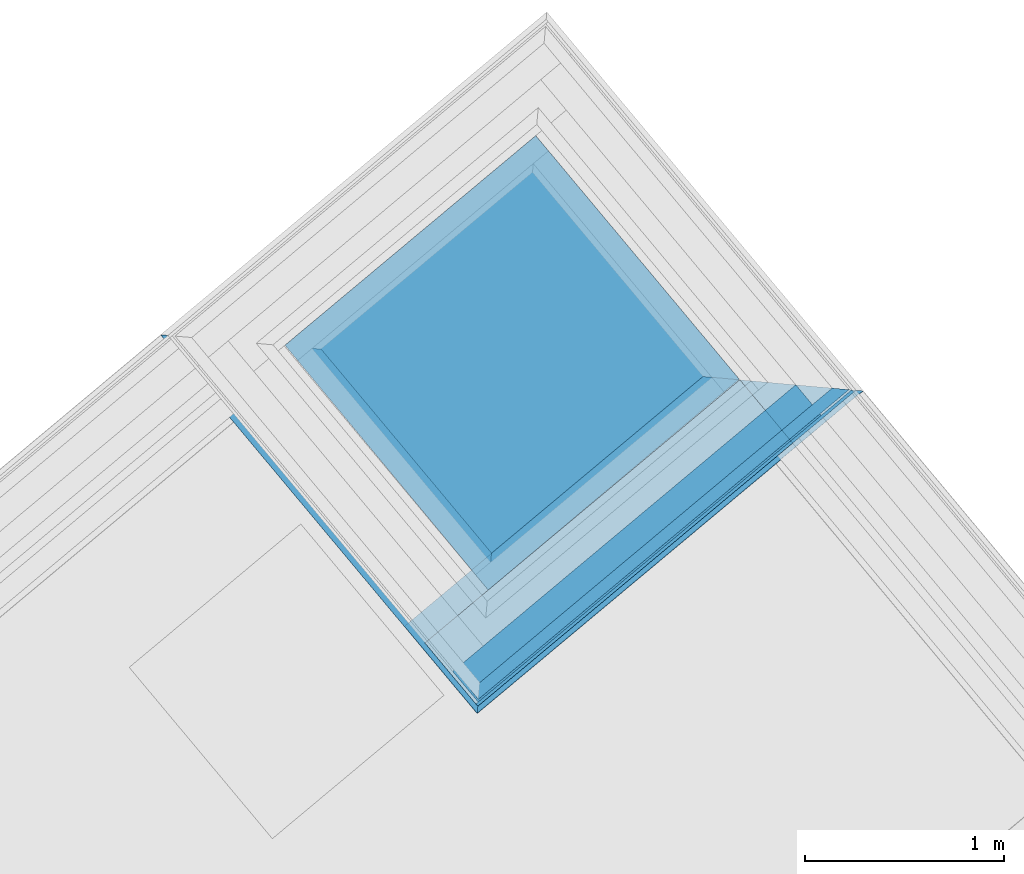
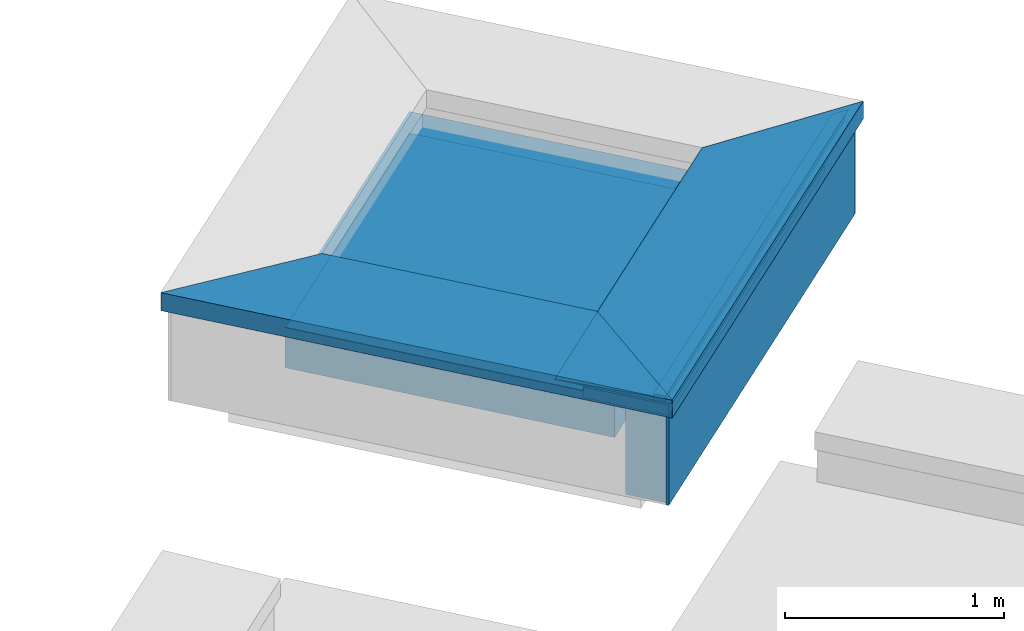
# One storey, part 10 of 15: 10 building element parts, 3 elements without a shape of their own.
"""IFC4 building model written with IfcOpenShell, lengths in metres."""

from ifc_helpers import new_model, entity, si_unit, converted_unit, derived_unit, direction, frame, origin_with_axes, place, context, subcontext, project, spatial, polygons, material, type_object, element, aggregate, save


model = new_model("IFC4")

# Units and contexts
model_context = context("Model", 3, precision=1e-05, world=origin_with_axes(), true_north=direction((0.0, 1.0)))
body_context = subcontext(model_context, "Body", "Model", "MODEL_VIEW")
ifc_project = project(units=[si_unit("LENGTHUNIT", "METRE"), si_unit("AREAUNIT", "SQUARE_METRE"), si_unit("VOLUMEUNIT", "CUBIC_METRE"), converted_unit("PLANEANGLEUNIT", "DEGREE", entity("IfcPlaneAngleMeasure", 0.0174532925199), si_unit("PLANEANGLEUNIT", "RADIAN"), dimensions=[0, 0, 0, 0, 0, 0, 0]), converted_unit("TIMEUNIT", "Year", entity("IfcTimeMeasure", 31556926.0), si_unit("TIMEUNIT", "SECOND"), dimensions=[0, 0, 1, 0, 0, 0, 0]), si_unit("MASSUNIT", "GRAM", prefix="KILO"), si_unit("THERMODYNAMICTEMPERATUREUNIT", "DEGREE_CELSIUS"), si_unit("LUMINOUSINTENSITYUNIT", "LUMEN"), si_unit("ENERGYUNIT", "JOULE", prefix="MEGA"), derived_unit("THERMALCONDUCTANCEUNIT", [(si_unit("POWERUNIT", "WATT"), 1), (si_unit("LENGTHUNIT", "METRE"), -1), (si_unit("THERMODYNAMICTEMPERATUREUNIT", "KELVIN"), -1)]), derived_unit("SPECIFICHEATCAPACITYUNIT", [(si_unit("ENERGYUNIT", "JOULE"), 1), (si_unit("MASSUNIT", "GRAM", prefix="KILO"), -1), (si_unit("THERMODYNAMICTEMPERATUREUNIT", "KELVIN"), -1)]), derived_unit("MASSDENSITYUNIT", [(si_unit("MASSUNIT", "GRAM", prefix="KILO"), 1), (si_unit("VOLUMEUNIT", "CUBIC_METRE"), -1)])], contexts=[model_context])

# Site, building, storey
site_placement = place(None, frame((-0.00153261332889, -0.00661245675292, 0.0), z_axis=(0.0, 0.0, 1.0), x_axis=(1.0, 0.0, 0.0)))
site = spatial("IfcSite", under=ifc_project, at=site_placement, Name="Site", CompositionType="ELEMENT")
building_placement = place(site_placement, origin_with_axes())
building = spatial("IfcBuilding", under=site, at=building_placement, Name="Building", CompositionType="ELEMENT")
storey_placement = place(building_placement, frame((0.0, 0.0, 11.84), z_axis=(0.0, 0.0, 1.0), x_axis=(1.0, 0.0, 0.0)))
storey = spatial("IfcBuildingStorey", under=building, at=storey_placement, Name="DA", CompositionType="ELEMENT", Elevation=11.84)

# Wall, building element parts
wall_type = type_object("IfcWallType", Name="Bauteil - Attika 574 x 610", PredefinedType="NOTDEFINED")
wall_1_placement = place(storey_placement, frame((1.33818690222, 24.5040825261, 0.96), z_axis=(0.0, 0.0, 1.0), x_axis=(0.767364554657, 0.641211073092, 0.0)))
wall_1 = element("IfcWall", 1, at=wall_1_placement, inside=storey, type_object=wall_type, Name="Wand-002", PredefinedType="NOTDEFINED")
ifc_material_1 = material(Name="Stahl")
building_element_part_1_placement = place(wall_1_placement, origin_with_axes())
building_element_part_1 = element("IfcBuildingElementPart", 2, at=building_element_part_1_placement, material=ifc_material_1, Name="Stahl", PredefinedType="NOTDEFINED", context=body_context, shape_type="Tessellation", body=[
    polygons([(-0.241515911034, -0.241500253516, 0.510007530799), (-0.241515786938, -0.239585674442, 0.510007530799), (-0.240558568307, -0.240542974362, 0.509050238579), (-0.241515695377, -0.238231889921, 0.51136132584), (-0.241515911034, -0.241500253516, 0.610006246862), (-0.241513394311, -0.202730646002, 0.608602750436), (-0.241515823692, -0.240152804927, 0.608602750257), (-0.24151582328, -0.240146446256, 0.51136132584), (-0.240161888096, -0.238231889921, 0.51136132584), (-0.233302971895, -0.23137340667, 0.518219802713), (2.28105556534, -0.23137340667, 0.518219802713), (2.2879140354, -0.238231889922, 0.511361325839), (2.29022512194, -0.240542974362, 0.509050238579), (2.28926782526, -0.241500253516, 0.510007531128), (2.28791402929, -0.241500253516, 0.511361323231), (2.28982858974, -0.241500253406, 0.51136132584), (2.28982910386, -0.241500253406, 0.519224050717), (2.28983177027, -0.241500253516, 0.559999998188), (2.28983228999, -0.241500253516, 0.567947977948), (2.28983267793, -0.241500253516, 0.573880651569), (2.28983281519, -0.241500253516, 0.575979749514), (2.28983334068, -0.241500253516, 0.584015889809), (2.28983347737, -0.241500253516, 0.586106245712), (2.28983359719, -0.241500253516, 0.587938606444), (2.28983494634, -0.241500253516, 0.608570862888), (2.2898349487, -0.241500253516, 0.608602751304), (2.25241278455, -0.241500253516, 0.608602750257), (2.29118240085, -0.241500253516, 0.610006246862), (-0.239289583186, -0.201849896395, 0.608570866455), (-0.240165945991, -0.202730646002, 0.608602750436), (2.25241285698, -0.202730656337, 0.608602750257), (2.25153201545, -0.201849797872, 0.608570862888), (1.7176313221, 0.332051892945, 0.589243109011), (0.294682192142, 0.332051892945, 0.589243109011), (-0.240168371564, -0.240152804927, 0.608602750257), (-0.240162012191, -0.24014644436, 0.511361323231), (2.25241278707, -0.240152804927, 0.608602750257), (2.28983495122, -0.240152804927, 0.608602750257), (2.28983494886, -0.240152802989, 0.608570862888), (2.28983359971, -0.240151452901, 0.587938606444), (2.28983347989, -0.240151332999, 0.586106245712), (2.2898333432, -0.240151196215, 0.584015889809), (2.28983281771, -0.240150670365, 0.575979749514), (2.28983268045, -0.240150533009, 0.573880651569), (2.28983229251, -0.2401501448, 0.567947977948), (2.28983177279, -0.240149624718, 0.559999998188), (2.28982910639, -0.240146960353, 0.519224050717), (2.28982859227, -0.24014644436, 0.511361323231), (2.28791403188, -0.24014644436, 0.511361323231), (-0.232298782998, -0.23228372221, 0.519224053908), (2.28196588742, -0.23228372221, 0.519224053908), (2.28105556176, -0.233287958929, 0.518219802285), (-0.239292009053, -0.239276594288, 0.608570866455), (2.25153194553, -0.239276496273, 0.608570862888), (1.71763125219, 0.294630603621, 0.589243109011), (0.330719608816, 0.332051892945, 0.587938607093), (1.7176313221, 0.332051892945, 0.587938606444), (1.7176313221, 0.332051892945, 0.586106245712), (1.7176313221, 0.332051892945, 0.584015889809), (1.7176313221, 0.332051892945, 0.575979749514), (1.7176313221, 0.332051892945, 0.573880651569), (1.7176313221, 0.332051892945, 0.567947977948), (1.7176313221, 0.332051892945, 0.560000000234), (1.7176313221, 0.332051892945, 0.519224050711), (1.7176313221, 0.332051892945, 0.51136132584), (1.7176313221, 0.332051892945, 0.509050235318), (1.7176313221, 0.332051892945, 0.499999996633), (1.7176313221, 0.332051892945, 0.498822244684), (1.7176313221, 0.332051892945, 0.491006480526), (1.71763132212, 0.332051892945, 0.489652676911), (0.330158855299, 0.332051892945, 0.489652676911), (0.328805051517, 0.332051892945, 0.491006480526), (0.330719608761, 0.332051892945, 0.491006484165), (0.330719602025, 0.332051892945, 0.498822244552), (0.330719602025, 0.332051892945, 0.499999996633), (0.330719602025, 0.332051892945, 0.509050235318), (0.330719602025, 0.332051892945, 0.51136132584), (0.330719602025, 0.332051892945, 0.519224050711), (0.330719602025, 0.332051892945, 0.56000000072), (0.330719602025, 0.332051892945, 0.56794797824), (0.330719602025, 0.332051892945, 0.57388065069), (0.330719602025, 0.332051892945, 0.575979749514), (0.330719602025, 0.332051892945, 0.584015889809), (0.330719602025, 0.332051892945, 0.586106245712), (0.330719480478, 0.330698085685, 0.587937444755), (0.330719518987, 0.330665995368, 0.587938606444), (1.71763131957, 0.330698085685, 0.587937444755), (1.71763131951, 0.330665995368, 0.587938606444), (1.71763131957, 0.330698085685, 0.586106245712), (1.71763131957, 0.330698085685, 0.584015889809), (1.71763131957, 0.330698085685, 0.575979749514), (1.71763131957, 0.330698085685, 0.573880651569), (1.71763131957, 0.330698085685, 0.567947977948), (1.71763131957, 0.330698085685, 0.560000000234), (1.71763131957, 0.330698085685, 0.519224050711), (1.71763131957, 0.330698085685, 0.51136132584), (1.71763131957, 0.330698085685, 0.509050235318), (1.71763131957, 0.330698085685, 0.499999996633), (1.71763131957, 0.330698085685, 0.498822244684), (1.71763131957, 0.330698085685, 0.491006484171), (1.71763131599, 0.32878353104, 0.491006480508), (1.71763131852, 0.33013733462, 0.489652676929), (0.331116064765, 0.331094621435, 0.4886954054), (1.71858859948, 0.331094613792, 0.488695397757), (0.328804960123, 0.330698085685, 0.491006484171), (0.328804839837, 0.328783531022, 0.491006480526), (0.330719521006, 0.330698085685, 0.491006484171), (0.330719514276, 0.330698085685, 0.498822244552), (0.330719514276, 0.330698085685, 0.499999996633), (0.330719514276, 0.330698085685, 0.509050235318), (0.330719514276, 0.330698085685, 0.51136132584), (0.330719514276, 0.330698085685, 0.519224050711), (0.330719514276, 0.330698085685, 0.56000000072), (0.330719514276, 0.330698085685, 0.56794797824), (0.330719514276, 0.330698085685, 0.57388065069), (0.330719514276, 0.330698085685, 0.575979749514), (0.330719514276, 0.330698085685, 0.584015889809), (0.330719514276, 0.330698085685, 0.586106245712), (1.71898512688, 0.33069808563, 0.491006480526), (1.71898512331, 0.328783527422, 0.491006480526), (0.321898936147, 0.32187807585, 0.497911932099), (1.72589055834, 0.32187807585, 0.497911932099), (0.321899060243, 0.323792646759, 0.497911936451), (0.322903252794, 0.322882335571, 0.498822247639), (1.7268008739, 0.322882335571, 0.498822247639)], [[[1, 2, 3]], [[4, 2, 1, 5, 6, 7, 8]], [[2, 4, 9, 10, 11, 12, 13, 3]], [[1, 3, 13, 14]], [[5, 1, 14, 15, 16, 17, 18, 19, 20, 21, 22, 23, 24, 25, 26, 27, 28]], [[29, 30, 6, 5, 28, 31, 32, 33, 34]], [[35, 7, 6, 30]], [[36, 8, 7, 35, 37, 38, 39, 40, 41, 42, 43, 44, 45, 46, 47, 48, 49]], [[8, 36, 9, 4]], [[9, 36, 50, 10]], [[10, 50, 51, 11]], [[49, 12, 11, 52]], [[49, 15, 14, 13, 12]], [[15, 49, 48, 16]], [[17, 16, 48, 47]], [[18, 17, 47, 46]], [[19, 18, 46, 45]], [[20, 19, 45, 44]], [[21, 20, 44, 43]], [[21, 43, 42, 22]], [[22, 42, 41, 23]], [[41, 40, 24, 23]], [[24, 40, 39, 25]], [[25, 39, 38, 26]], [[37, 27, 26, 38]], [[27, 37, 31, 28]], [[53, 35, 30, 29]], [[37, 54, 32, 31]], [[32, 54, 55, 33]], [[56, 34, 33, 57, 58, 59, 60, 61, 62, 63, 64, 65, 66, 67, 68, 69, 70, 71, 72, 73, 74, 75, 76, 77, 78, 79, 80, 81, 82, 83, 84]], [[34, 56, 85, 86, 53, 29]], [[35, 53, 54, 37]], [[50, 36, 49, 52, 51]], [[52, 11, 51]], [[53, 86, 85, 87, 88, 55, 54]], [[88, 87, 57, 33, 55]], [[89, 58, 57, 87]], [[90, 59, 58, 89]], [[91, 60, 59, 90]], [[92, 61, 60, 91]], [[93, 62, 61, 92]], [[94, 63, 62, 93]], [[94, 95, 64, 63]], [[95, 96, 65, 64]], [[96, 97, 66, 65]], [[97, 98, 67, 66]], [[98, 99, 68, 67]], [[99, 100, 69, 68]], [[100, 101, 102, 70, 69]], [[103, 71, 70, 104]], [[105, 72, 71, 103, 106]], [[72, 105, 107, 73]], [[108, 74, 73, 107]], [[75, 74, 108, 109]], [[109, 110, 76, 75]], [[110, 111, 77, 76]], [[111, 112, 78, 77]], [[112, 113, 79, 78]], [[80, 79, 113, 114]], [[81, 80, 114, 115]], [[82, 81, 115, 116]], [[83, 82, 116, 117]], [[84, 83, 117, 118]], [[85, 56, 84, 118]], [[109, 108, 107, 100, 99, 98, 97, 96, 95, 94, 93, 92, 91, 90, 89, 87, 85, 118, 117, 116, 115, 114, 113, 112, 111, 110]], [[101, 100, 119, 120]], [[121, 106, 103, 104, 102, 101, 120, 122]], [[70, 102, 104]], [[121, 123, 105, 106]], [[105, 123, 124, 125, 119, 100, 107]], [[122, 120, 119, 125]], [[124, 121, 122, 125]], [[123, 121, 124]]], closed=True),
])
ifc_material_2 = material(Name="Holzwerkstoff")
building_element_part_2_placement = place(wall_1_placement, origin_with_axes())
building_element_part_2 = element("IfcBuildingElementPart", 3, at=building_element_part_2_placement, material=ifc_material_2, Name="Holzwerkstoff", PredefinedType="NOTDEFINED", context=body_context, shape_type="Tessellation", body=[
    polygons([(-0.130133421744, -0.130124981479, 0.584015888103), (-0.189997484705, -0.189984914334, 0.586106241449), (-0.18996373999, 0.330634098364, 0.586106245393), (-0.130103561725, 0.330561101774, 0.584015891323), (1.71912124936, -0.130124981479, 0.584015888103), (1.71904814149, -0.189984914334, 0.586106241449), (-0.240015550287, -0.239999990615, 0.587852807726), (-0.239978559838, 0.330695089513, 0.587852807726), (-0.239975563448, 0.330698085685, 0.587938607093), (1.71898512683, 0.330698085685, 0.587938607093), (1.71904911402, 0.330634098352, 0.586106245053), (1.71912210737, 0.330561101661, 0.584015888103), (1.71940273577, 0.330280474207, 0.575979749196), (1.71947603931, 0.330207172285, 0.573880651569), (1.71968324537, 0.329999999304, 0.567947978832), (0.330021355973, 0.329999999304, 0.567947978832), (0.160131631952, 0.330207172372, 0.573880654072), (0.100021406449, 0.330280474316, 0.575979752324), (0.100006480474, 0.0999999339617, 0.575979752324), (1.71940230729, 0.100000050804, 0.575979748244), (1.71898705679, -0.239999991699, 0.587852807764), (-0.24001255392, -0.239996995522, 0.587938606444), (-0.239292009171, -0.239276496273, 0.608570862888), (2.28895854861, -0.239276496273, 0.608570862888), (1.71898406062, -0.2399969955, 0.587938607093), (1.71947572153, 0.160110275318, 0.573880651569), (0.16012060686, 0.160110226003, 0.573880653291)], [[[1, 2, 3, 4]], [[2, 1, 5, 6]], [[2, 7, 8, 3]], [[3, 8, 9, 10, 11, 12, 13, 14, 15, 16, 17, 18, 4]], [[4, 18, 19, 1]], [[19, 20, 5, 1]], [[12, 11, 6, 5]], [[7, 2, 6, 21]], [[7, 22, 9, 8]], [[9, 23, 24, 10]], [[11, 10, 25, 21, 6]], [[13, 12, 5, 20]], [[26, 14, 13, 20]], [[26, 15, 14]], [[27, 16, 15, 26]], [[17, 16, 27]], [[18, 17, 27, 19]], [[19, 27, 26, 20]], [[22, 7, 21, 25, 24, 23]], [[22, 23, 9]], [[24, 25, 10]]], closed=True),
])
ifc_material_3 = material(Name="Brettschichtholz")
building_element_part_3_placement = place(wall_1_placement, origin_with_axes())
building_element_part_3 = element("IfcBuildingElementPart", 4, at=building_element_part_3_placement, material=ifc_material_3, Name="Brettschichtholz", PredefinedType="NOTDEFINED", context=body_context, shape_type="Tessellation", body=[
    polygons([(-0.21501230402, -0.190124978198, 0.560000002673), (-0.21501391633, -0.214999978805, 0.560000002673), (1.84968219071, -0.214999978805, 0.560000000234), (1.84968223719, -0.190124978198, 0.560000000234), (-0.215013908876, -0.214999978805, 0.519224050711), (-0.21500841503, -0.130124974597, 0.560000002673), (-0.214993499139, 0.0999999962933, 0.560000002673), (-0.214989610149, 0.159999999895, 0.560000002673), (-0.21498701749, 0.200000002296, 0.560000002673), (-0.214987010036, 0.200000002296, 0.519224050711), (-0.215013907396, -0.214999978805, 0.51136132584), (-0.215013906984, -0.214999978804, 0.509050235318), (-0.215013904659, -0.214999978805, 0.50000001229), (1.84968219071, -0.214999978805, 0.499999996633), (1.84968219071, -0.214999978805, 0.509050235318), (1.84968219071, -0.214999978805, 0.51136132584), (1.84968219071, -0.214999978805, 0.519224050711), (1.84968296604, 0.200000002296, 0.519224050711), (1.84968296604, 0.200000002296, 0.560000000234), (1.84968289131, 0.159999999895, 0.560000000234), (1.84968277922, 0.0999999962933, 0.560000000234), (1.84968234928, -0.130124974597, 0.560000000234), (1.84968296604, 0.200000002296, 0.51136132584), (1.84968296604, 0.200000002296, 0.509050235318), (1.84968296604, 0.200000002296, 0.499999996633), (-0.214987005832, 0.200000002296, 0.50000001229), (-0.214987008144, 0.200000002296, 0.509050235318), (-0.214987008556, 0.200000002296, 0.51136132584)], [[[1, 2, 3, 4]], [[5, 2, 1, 6, 7, 8, 9, 10]], [[2, 5, 11, 12, 13, 14, 15, 16, 17, 3]], [[4, 3, 17, 18, 19, 20, 21, 22]], [[6, 1, 4, 22]], [[7, 6, 22, 21]], [[8, 7, 21, 20]], [[9, 8, 20, 19]], [[10, 9, 19, 18, 23, 24, 25, 26, 27, 28]], [[5, 10, 28, 11]], [[11, 28, 27, 12]], [[12, 27, 26, 13]], [[25, 14, 13, 26]], [[24, 15, 14, 25]], [[23, 16, 15, 24]], [[18, 17, 16, 23]]], closed=True),
])
ifc_material_4 = material(Name="EPS 1")
building_element_part_4_placement = place(wall_1_placement, origin_with_axes())
building_element_part_4 = element("IfcBuildingElementPart", 5, at=building_element_part_4_placement, material=ifc_material_4, Name="EPS 1", PredefinedType="NOTDEFINED", context=body_context, shape_type="Tessellation", body=[
    polygons([(-0.199999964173, 2.16659046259e-09, 0.5), (-0.200012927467, -0.19999996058, 0.5), (2.04968221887, -0.19999996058, 0.5), (2.04968259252, 2.16659401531e-09, 0.5), (-0.200012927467, -0.19999996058, 0.498822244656), (-0.199999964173, 2.16659046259e-09, 0.498822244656), (-0.200012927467, -0.19999996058, 0.491006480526), (-0.200012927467, -0.19999996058, 0.488695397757), (-0.200012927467, -0.19999996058, 0.235000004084), (-0.200012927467, -0.19999996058, 0.0), (2.04968221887, -0.19999996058, 0.0), (2.04968221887, -0.19999996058, 0.235000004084), (2.04968221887, -0.19999996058, 0.488695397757), (2.04968221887, -0.19999996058, 0.491006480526), (2.04968221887, -0.19999996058, 0.498822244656), (2.04968259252, 2.16658690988e-09, 0.498822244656), (2.04968259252, 2.16658690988e-09, 0.491006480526), (2.04968259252, 2.16658690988e-09, 0.488695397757), (2.04968259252, 2.16658690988e-09, 0.235000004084), (2.04968259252, 2.16659401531e-09, 0.0), (-0.199999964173, 2.16659046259e-09, 0.0), (-0.199999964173, 2.16659046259e-09, 0.235000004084), (-0.199999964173, 2.16659046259e-09, 0.488695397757), (-0.199999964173, 2.16659046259e-09, 0.491006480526)], [[[1, 2, 3, 4]], [[5, 2, 1, 6]], [[2, 5, 7, 8, 9, 10, 11, 12, 13, 14, 15, 3]], [[4, 3, 15, 16]], [[6, 1, 4, 16, 17, 18, 19, 20, 21, 22, 23, 24]], [[5, 6, 24, 7]], [[7, 24, 23, 8]], [[8, 23, 22, 9]], [[9, 22, 21, 10]], [[10, 21, 20, 11]], [[19, 12, 11, 20]], [[18, 13, 12, 19]], [[17, 14, 13, 18]], [[16, 15, 14, 17]]], closed=True),
])
ifc_material_5 = material(Name="Vollholz")
building_element_part_5_placement = place(wall_1_placement, origin_with_axes())
building_element_part_5 = element("IfcBuildingElementPart", 6, at=building_element_part_5_placement, material=ifc_material_5, Name="Vollholz", PredefinedType="NOTDEFINED", context=body_context, shape_type="Tessellation", body=[
    polygons([(-0.190137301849, -0.190124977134, 0.560000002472), (-0.190094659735, -0.19008233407, 0.567947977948), (-0.19009077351, -0.130124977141, 0.567947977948), (-0.19013341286, -0.130124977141, 0.560000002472), (2.17980721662, -0.190124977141, 0.560000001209), (2.1798072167, -0.19008233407, 0.567947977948), (2.17980721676, -0.190050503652, 0.573880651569), (2.17980721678, -0.190039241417, 0.575979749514), (2.17980721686, -0.189996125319, 0.584015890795), (2.23966714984, -0.189984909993, 0.586106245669), (-0.189997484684, -0.189984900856, 0.586106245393), (-0.190008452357, -0.189996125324, 0.584015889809), (-0.190051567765, -0.190039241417, 0.575979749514), (-0.190062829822, -0.190050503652, 0.573880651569), (-0.19005894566, -0.130124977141, 0.573880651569), (-0.190047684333, -0.130124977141, 0.575979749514), (-0.190004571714, -0.130124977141, 0.584015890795), (2.17980732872, -0.130124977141, 0.584015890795), (2.17980732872, -0.130124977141, 0.575979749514), (2.17980732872, -0.130124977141, 0.573880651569), (2.17980732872, -0.130124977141, 0.567947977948), (2.17980732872, -0.130124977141, 0.560000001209)], [[[1, 2, 3, 4]], [[2, 1, 5, 6, 7, 8, 9, 10, 11, 12, 13, 14]], [[2, 14, 15, 3]], [[4, 3, 15, 16, 17, 18, 19, 20, 21, 22]], [[1, 4, 22, 5]], [[22, 21, 6, 5]], [[21, 20, 7, 6]], [[20, 19, 8, 7]], [[9, 8, 19, 18]], [[9, 18, 10]], [[17, 11, 10, 18]], [[17, 12, 11]], [[16, 13, 12, 17]], [[15, 14, 13, 16]]], closed=True),
])
ifc_material_6 = material(Name="Zementputz")
building_element_part_6_placement = place(wall_1_placement, origin_with_axes())
building_element_part_6 = element("IfcBuildingElementPart", 7, at=building_element_part_6_placement, material=ifc_material_6, Name="Zementputz", PredefinedType="NOTDEFINED", context=body_context, shape_type="Tessellation", body=[
    polygons([(2.24968215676, -0.214999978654, 0.498822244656), (2.24968215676, -0.214999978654, 0.5), (-0.215013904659, -0.214999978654, 0.50000001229), (-0.215013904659, -0.214999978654, 0.0), (2.24968215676, -0.214999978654, 0.0), (2.24968215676, -0.214999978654, 0.235000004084), (2.24968215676, -0.214999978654, 0.488695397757), (2.24968215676, -0.214999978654, 0.491006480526), (2.24968218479, -0.199999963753, 0.5), (2.24968218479, -0.199999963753, 0.498822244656), (-0.215012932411, -0.199999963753, 0.50000001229), (-0.215012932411, -0.199999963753, 0.0), (2.24968218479, -0.199999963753, 0.0), (2.24968218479, -0.199999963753, 0.235000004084), (2.24968218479, -0.199999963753, 0.488695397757), (2.24968218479, -0.199999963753, 0.491006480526)], [[[1, 2, 3, 4, 5, 6, 7, 8]], [[9, 2, 1, 10]], [[2, 9, 11, 3]], [[12, 4, 3, 11]], [[13, 5, 4, 12]], [[14, 6, 5, 13]], [[15, 7, 6, 14]], [[16, 8, 7, 15]], [[10, 1, 8, 16]], [[9, 10, 16, 15, 14, 13, 12, 11]]], closed=True),
])
aggregate(wall_1, [building_element_part_1, building_element_part_2, building_element_part_3, building_element_part_4, building_element_part_5, building_element_part_6])

# Roof, building element parts
roof_type = type_object("IfcRoofType", Name="Flachdach Kies Dachaufbau 360", PredefinedType="NOTDEFINED")
roof_placement = place(storey_placement, frame((2.91104067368, 25.8183617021, 0.95), z_axis=(0.0, 0.0, 1.0), x_axis=(-0.767364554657, -0.641211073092, 0.0)))
roof = element("IfcRoof", 8, at=roof_placement, inside=storey, type_object=roof_type, Name="Dach-002", PredefinedType="NOTDEFINED")
ifc_material_7 = material(Name="Kies")
building_element_part_7_placement = place(roof_placement, origin_with_axes())
building_element_part_7 = element("IfcBuildingElementPart", 9, at=building_element_part_7_placement, material=ifc_material_7, Name="Kies", PredefinedType="NOTDEFINED", context=body_context, shape_type="Tessellation", body=[
    polygons([(0.199996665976, -1.80114454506, 0.24), (0.199996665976, -1.80114454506, 0.36), (0.199999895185, -0.205028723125, 0.36), (0.199999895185, -0.205028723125, 0.24), (1.84456614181, -1.80114786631, 0.24), (1.84456614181, -1.80114786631, 0.36), (1.84966960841, -0.200003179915, 0.36), (1.84966960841, -0.200003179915, 0.24)], [[[1, 2, 3, 4]], [[5, 6, 2, 1]], [[3, 2, 6, 7]], [[4, 3, 7, 8]], [[4, 8, 5, 1]], [[8, 7, 6, 5]]], closed=True),
])
ifc_material_8 = material(Name="Folie")
building_element_part_8_placement = place(roof_placement, origin_with_axes())
building_element_part_8 = element("IfcBuildingElementPart", 10, at=building_element_part_8_placement, material=ifc_material_8, Name="Folie", PredefinedType="NOTDEFINED", context=body_context, shape_type="Tessellation", body=[
    polygons([(0.199996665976, -1.80114454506, 0.235), (0.199996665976, -1.80114454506, 0.24), (0.199999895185, -0.205028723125, 0.24), (0.199999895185, -0.205028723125, 0.235), (1.84456614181, -1.80114786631, 0.235), (1.84456614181, -1.80114786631, 0.24), (1.84966960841, -0.200003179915, 0.24), (1.84966960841, -0.200003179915, 0.235)], [[[1, 2, 3, 4]], [[5, 6, 2, 1]], [[3, 2, 6, 7]], [[4, 3, 7, 8]], [[4, 8, 5, 1]], [[8, 7, 6, 5]]], closed=True),
])
ifc_material_9 = material(Name="XPS")
building_element_part_9_placement = place(roof_placement, origin_with_axes())
building_element_part_9 = element("IfcBuildingElementPart", 11, at=building_element_part_9_placement, material=ifc_material_9, Name="XPS", PredefinedType="NOTDEFINED", context=body_context, shape_type="Tessellation", body=[
    polygons([(0.199996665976, -1.80114454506, 0.015), (0.199996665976, -1.80114454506, 0.235), (0.199999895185, -0.205028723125, 0.235), (0.199999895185, -0.205028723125, 0.015), (1.84456614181, -1.80114786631, 0.015), (1.84456614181, -1.80114786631, 0.235), (1.84966960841, -0.200003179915, 0.235), (1.84966960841, -0.200003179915, 0.015)], [[[1, 2, 3, 4]], [[5, 6, 2, 1]], [[3, 2, 6, 7]], [[4, 3, 7, 8]], [[4, 8, 5, 1]], [[8, 7, 6, 5]]], closed=True),
])
aggregate(roof, [building_element_part_7, building_element_part_8, building_element_part_9])

# Wall, building element part
wall_2_placement = place(storey_placement, frame((1.33818690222, 24.5040825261, 0.96), z_axis=(0.0, 0.0, 1.0), x_axis=(-0.641161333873, 0.767406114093, 0.0)))
wall_2 = element("IfcWall", 12, at=wall_2_placement, inside=storey, type_object=wall_type, Name="Wand-002", PredefinedType="NOTDEFINED")
building_element_part_10_placement = place(wall_2_placement, origin_with_axes())
building_element_part_10 = element("IfcBuildingElementPart", 13, at=building_element_part_10_placement, material=ifc_material_1, Name="Stahl", PredefinedType="NOTDEFINED", context=body_context, shape_type="Tessellation", body=[
    polygons([(2.24127957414, 0.241500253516, 0.51136132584), (2.24128008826, 0.241500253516, 0.519224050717), (2.24128017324, 0.240146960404, 0.519224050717), (2.24127965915, 0.240146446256, 0.51136132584), (2.23936501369, 0.241500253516, 0.511361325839), (2.24071881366, 0.241500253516, 0.510007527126), (-0.239601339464, 0.241500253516, 0.510007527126), (-0.238247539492, 0.241500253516, 0.511361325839), (-0.24016209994, 0.241500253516, 0.51136132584), (-0.240162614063, 0.241500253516, 0.519224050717), (-0.240165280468, 0.241500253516, 0.560000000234), (-0.240165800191, 0.241500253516, 0.567947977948), (-0.240166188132, 0.241500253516, 0.573880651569), (-0.240166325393, 0.241500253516, 0.575979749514), (-0.240166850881, 0.241500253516, 0.584015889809), (-0.24016698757, 0.241500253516, 0.586106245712), (-0.240167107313, 0.241500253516, 0.587937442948), (-0.240168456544, 0.241500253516, 0.608570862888), (-0.240168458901, 0.241500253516, 0.608602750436), (-0.202746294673, 0.241500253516, 0.608602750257), (-0.241515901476, 0.241500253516, 0.610006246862), (2.24263338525, 0.241500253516, 0.610006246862), (2.20386376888, 0.241500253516, 0.608602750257), (2.2412859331, 0.241500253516, 0.608602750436), (2.24128593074, 0.241500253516, 0.608570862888), (2.24128458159, 0.241500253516, 0.587938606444), (2.24128446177, 0.241500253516, 0.586106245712), (2.24128432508, 0.241500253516, 0.584015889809), (2.24128379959, 0.241500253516, 0.575979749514), (2.24128366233, 0.241500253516, 0.573880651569), (2.24128327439, 0.241500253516, 0.567947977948), (2.24128275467, 0.241500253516, 0.560000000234), (2.24128283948, 0.240149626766, 0.560000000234), (2.2393650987, 0.240146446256, 0.511361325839), (2.24128335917, 0.240150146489, 0.567947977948), (2.24128374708, 0.24015053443, 0.573880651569), (2.24128388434, 0.240150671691, 0.575979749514), (2.24128440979, 0.240151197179, 0.584015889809), (2.24128454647, 0.240151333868, 0.586106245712), (2.24128466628, 0.240151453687, 0.587938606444), (2.24128601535, 0.240152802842, 0.608570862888), (2.24128601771, 0.240152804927, 0.608602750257), (2.20386385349, 0.240152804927, 0.608602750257), (-0.202746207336, 0.240152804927, 0.608602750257), (-0.240168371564, 0.240152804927, 0.608602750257), (-0.240168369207, 0.240152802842, 0.608570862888), (-0.240167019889, 0.240151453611, 0.587937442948), (-0.240166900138, 0.240151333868, 0.586106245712), (-0.24016676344, 0.240151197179, 0.584015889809), (-0.240166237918, 0.240150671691, 0.575979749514), (-0.240166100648, 0.24015053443, 0.573880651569), (-0.240165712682, 0.240150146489, 0.567947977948), (-0.240165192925, 0.240149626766, 0.560000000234), (-0.240162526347, 0.240146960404, 0.519224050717), (-0.240162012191, 0.240146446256, 0.51136132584), (-0.238247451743, 0.240146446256, 0.511361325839), (2.23936521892, 0.238231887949, 0.51136132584), (2.24167616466, 0.240542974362, 0.509050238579), (-0.240558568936, 0.240542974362, 0.509050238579), (-0.238247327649, 0.238231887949, 0.51136132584), (-0.202743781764, 0.202730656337, 0.608602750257), (2.20298541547, 0.201849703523, 0.608570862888), (2.20386620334, 0.202730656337, 0.608602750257), (-0.201862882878, 0.201849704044, 0.608570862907), (0.332073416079, -0.332051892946, 0.589243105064), (1.66911724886, -0.3320517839, 0.589243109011), (2.20298306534, 0.239276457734, 0.608570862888), (-0.201865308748, 0.239276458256, 0.608570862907), (2.23250704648, 0.233287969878, 0.518219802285), (-0.231388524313, 0.233287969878, 0.518219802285), (-0.232298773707, 0.232283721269, 0.519224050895), (2.23341743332, 0.232283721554, 0.51922405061), (2.2325071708, 0.231373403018, 0.518219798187), (-0.231388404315, 0.231373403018, 0.518219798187), (0.332070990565, -0.29463062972, 0.589243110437), (0.332073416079, -0.332051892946, 0.587937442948), (0.332073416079, -0.332051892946, 0.586106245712), (0.332073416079, -0.332051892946, 0.584015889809), (0.332073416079, -0.332051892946, 0.575979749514), (0.332073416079, -0.332051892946, 0.573880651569), (0.332073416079, -0.332051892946, 0.567947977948), (0.332073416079, -0.332051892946, 0.560000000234), (0.332073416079, -0.332051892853, 0.519224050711), (0.332073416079, -0.332051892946, 0.51136132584), (0.332073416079, -0.332051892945, 0.509050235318), (0.332073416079, -0.332051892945, 0.499999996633), (0.332073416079, -0.332051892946, 0.498822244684), (0.332073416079, -0.332051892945, 0.491006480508), (0.332073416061, -0.332051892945, 0.489652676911), (1.66911724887, -0.332051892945, 0.489652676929), (1.66911724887, -0.332051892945, 0.491006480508), (1.66911724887, -0.332051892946, 0.498822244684), (1.66911724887, -0.332051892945, 0.499999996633), (1.66911724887, -0.332051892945, 0.509050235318), (1.66911724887, -0.332051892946, 0.51136132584), (1.66911724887, -0.332051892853, 0.519224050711), (1.66911724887, -0.332051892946, 0.560000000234), (1.66911724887, -0.332051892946, 0.567947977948), (1.66911724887, -0.332051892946, 0.573880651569), (1.66911724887, -0.332051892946, 0.575979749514), (1.66911724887, -0.332051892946, 0.584015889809), (1.66911724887, -0.332051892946, 0.586106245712), (1.66911724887, -0.332051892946, 0.587938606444), (1.66911489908, -0.294630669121, 0.589243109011), (1.66911716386, -0.330698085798, 0.587937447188), (0.33207332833, -0.330698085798, 0.587937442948), (1.66911716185, -0.330666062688, 0.587938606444), (0.33207332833, -0.330698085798, 0.586106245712), (0.33207332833, -0.330698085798, 0.584015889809), (0.33207332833, -0.330698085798, 0.575979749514), (0.33207332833, -0.330698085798, 0.573880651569), (0.33207332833, -0.330698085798, 0.567947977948), (0.33207332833, -0.330698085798, 0.560000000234), (0.33207332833, -0.330698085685, 0.519224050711), (0.33207332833, -0.330698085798, 0.51136132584), (0.33207332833, -0.330698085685, 0.509050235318), (0.33207332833, -0.330698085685, 0.499999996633), (0.33207332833, -0.330698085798, 0.498822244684), (0.33207332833, -0.330698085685, 0.49100648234), (0.332073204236, -0.32878353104, 0.491006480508), (0.332073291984, -0.33013733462, 0.489652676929), (0.331116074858, -0.331094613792, 0.488695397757), (1.67007446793, -0.331094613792, 0.488695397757), (1.66911712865, -0.33013733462, 0.489652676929), (1.66911704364, -0.32878353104, 0.491006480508), (1.66911716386, -0.330698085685, 0.49100648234), (1.66911716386, -0.330698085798, 0.498822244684), (1.66911716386, -0.330698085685, 0.499999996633), (1.66911716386, -0.330698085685, 0.509050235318), (1.66911716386, -0.330698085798, 0.51136132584), (1.66911716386, -0.330698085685, 0.519224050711), (1.66911716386, -0.330698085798, 0.560000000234), (1.66911716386, -0.330698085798, 0.567947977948), (1.66911716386, -0.330698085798, 0.573880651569), (1.66911716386, -0.330698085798, 0.575979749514), (1.66911716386, -0.330698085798, 0.584015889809), (1.66911716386, -0.330698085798, 0.586106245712), (0.323813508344, -0.321878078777, 0.497911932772), (1.67737586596, -0.321878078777, 0.497911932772), (1.67047085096, -0.328783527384, 0.491006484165), (0.330719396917, -0.328783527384, 0.491006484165), (0.330719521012, -0.330698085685, 0.491006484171), (1.67047097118, -0.330698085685, 0.491006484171), (1.67828624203, -0.32288233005, 0.498822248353), (0.32290326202, -0.32288233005, 0.498822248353)], [[[1, 2, 3, 4]], [[1, 5, 6, 7, 8, 9, 10, 11, 12, 13, 14, 15, 16, 17, 18, 19, 20, 21, 22, 23, 24, 25, 26, 27, 28, 29, 30, 31, 32, 2]], [[2, 32, 33, 3]], [[34, 4, 3, 33, 35, 36, 37, 38, 39, 40, 41, 42, 43, 44, 45, 46, 47, 48, 49, 50, 51, 52, 53, 54, 55, 56]], [[5, 1, 4, 34]], [[6, 5, 34, 57, 58]], [[6, 58, 59, 7]], [[7, 59, 60, 56, 8]], [[9, 8, 56, 55]], [[10, 9, 55, 54]], [[11, 10, 54, 53]], [[12, 11, 53, 52]], [[13, 12, 52, 51]], [[14, 13, 51, 50]], [[15, 14, 50, 49]], [[16, 15, 49, 48]], [[17, 16, 48, 47]], [[17, 47, 46, 18]], [[19, 18, 46, 45]], [[19, 45, 44, 20]], [[21, 20, 44, 61]], [[62, 63, 22, 21, 61, 64, 65, 66]], [[43, 23, 22, 63]], [[23, 43, 42, 24]], [[25, 24, 42, 41]], [[26, 25, 41, 40]], [[27, 26, 40, 39]], [[28, 27, 39, 38]], [[29, 28, 38, 37]], [[30, 29, 37, 36]], [[31, 30, 36, 35]], [[32, 31, 35, 33]], [[43, 67, 68, 44]], [[69, 34, 56, 70, 71, 72]], [[34, 69, 73, 57]], [[57, 73, 74, 60, 59, 58]], [[56, 60, 74, 70]], [[44, 68, 64, 61]], [[43, 63, 62, 67]], [[68, 75, 65, 64]], [[66, 65, 76, 77, 78, 79, 80, 81, 82, 83, 84, 85, 86, 87, 88, 89, 90, 91, 92, 93, 94, 95, 96, 97, 98, 99, 100, 101, 102, 103]], [[67, 62, 66, 104]], [[105, 106, 75, 68, 67, 104, 107]], [[71, 70, 74]], [[73, 72, 71, 74]], [[69, 72, 73]], [[75, 106, 76, 65]], [[106, 108, 77, 76]], [[108, 109, 78, 77]], [[109, 110, 79, 78]], [[111, 80, 79, 110]], [[111, 112, 81, 80]], [[112, 113, 82, 81]], [[82, 113, 114, 83]], [[115, 84, 83, 114]], [[115, 116, 85, 84]], [[116, 117, 86, 85]], [[118, 87, 86, 117]], [[118, 119, 88, 87]], [[120, 121, 89, 88, 119]], [[122, 123, 90, 89]], [[124, 125, 126, 91, 90]], [[91, 126, 127, 92]], [[127, 128, 93, 92]], [[128, 129, 94, 93]], [[129, 130, 95, 94]], [[95, 130, 131, 96]], [[132, 97, 96, 131]], [[132, 133, 98, 97]], [[133, 134, 99, 98]], [[134, 135, 100, 99]], [[135, 136, 101, 100]], [[136, 137, 102, 101]], [[137, 105, 103, 102]], [[107, 104, 66, 103, 105]], [[126, 119, 118, 117, 116, 115, 114, 113, 112, 111, 110, 109, 108, 106, 105, 137, 136, 135, 134, 133, 132, 131, 130, 129, 128, 127]], [[138, 139, 140, 125, 124, 123, 122, 121, 120, 141]], [[121, 122, 89]], [[141, 120, 119, 142]], [[124, 90, 123]], [[125, 140, 143, 126]], [[119, 126, 143, 144, 145, 142]], [[139, 138, 145, 144]], [[140, 139, 144, 143]], [[141, 142, 145, 138]]], closed=True),
])
aggregate(wall_2, [building_element_part_10])

save(model, "model.ifc")
